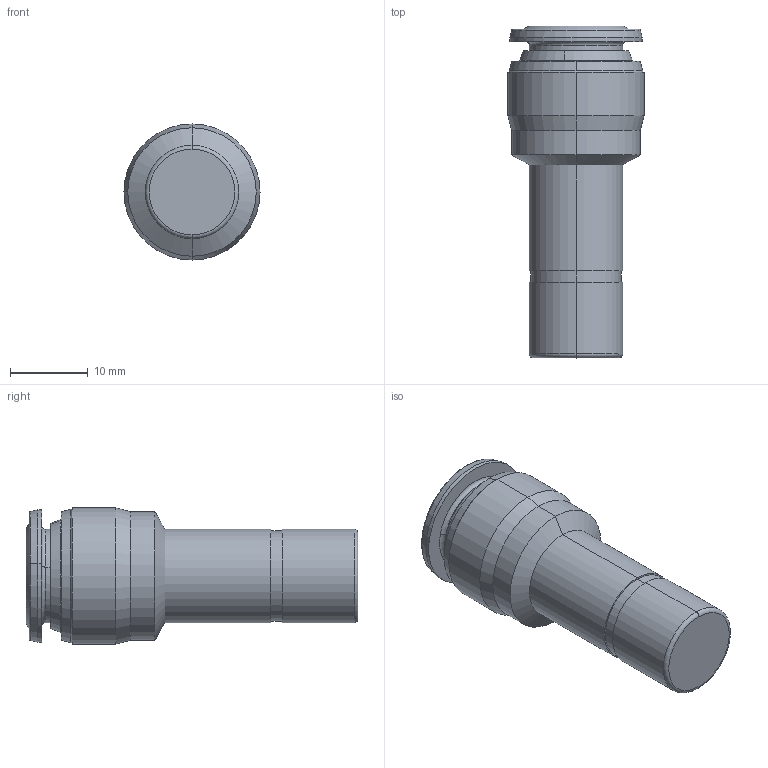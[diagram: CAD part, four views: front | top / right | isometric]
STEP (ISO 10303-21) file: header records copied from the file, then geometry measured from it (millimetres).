
FILE_DESCRIPTION (( 'STEP AP203' ), '1' );
FILE_NAME ('6070000007.STEP', '2020-10-01T13:19:01', ( '' ), ( '' ), 'SwSTEP 2.0', 'SolidWorks 2016', '' );
FILE_SCHEMA (( 'CONFIG_CONTROL_DESIGN' ));
Length unit declared in the file: millimetre
Products named in the file (1): 6070000007
Bounding box: 17.5 x 42.65 x 17.5 mm (x, y, z)
Volume: 6249.4 mm3; surface area: 2535.7 mm2
Topology: 1 solids, 1 shells, 58 faces, 140 edges, 86 vertices
Faces by surface type: plane 20, cone 16, cylinder 16, torus 6
Entity records: 1797 total; most frequent: DIRECTION 334, CARTESIAN_POINT 285, ORIENTED_EDGE 280, EDGE_CURVE 140, AXIS2_PLACEMENT_3D 135, VERTEX_POINT 86, CIRCLE 76, EDGE_LOOP 68
